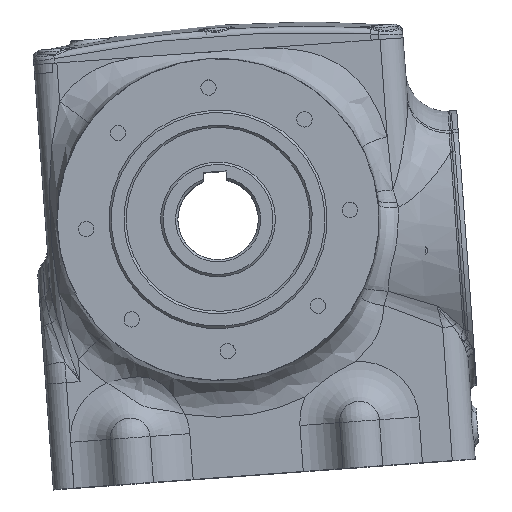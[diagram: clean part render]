
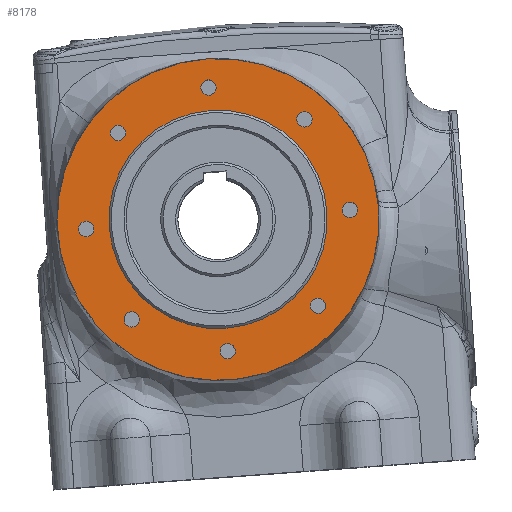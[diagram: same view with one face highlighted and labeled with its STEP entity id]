
A CAD part, top view. The second image highlights one B-rep face of the part: STEP entity #8178.
In plain terms, the highlighted planar face has unit normal (0, 0, 1).
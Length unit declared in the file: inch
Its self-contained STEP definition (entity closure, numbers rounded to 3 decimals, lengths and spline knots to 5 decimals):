
#722=FACE_BOUND('',#2410,.T.);
#723=FACE_BOUND('',#2411,.T.);
#724=FACE_BOUND('',#2412,.T.);
#725=FACE_BOUND('',#2413,.T.);
#726=FACE_BOUND('',#2414,.T.);
#727=FACE_BOUND('',#2415,.T.);
#728=FACE_BOUND('',#2416,.T.);
#729=FACE_BOUND('',#2417,.T.);
#730=FACE_BOUND('',#2418,.T.);
#1256=CIRCLE('',#8919,1.87008);
#1296=CIRCLE('',#8985,2.75591);
#1297=CIRCLE('',#8986,0.13085);
#1298=CIRCLE('',#8987,0.13085);
#1299=CIRCLE('',#8988,0.13085);
#1300=CIRCLE('',#8989,0.13085);
#1301=CIRCLE('',#8990,0.13085);
#1302=CIRCLE('',#8991,0.13085);
#1303=CIRCLE('',#8992,0.13085);
#1304=CIRCLE('',#8993,0.13085);
#1782=FACE_OUTER_BOUND('',#2409,.T.);
#2409=EDGE_LOOP('',(#6316));
#2410=EDGE_LOOP('',(#6317));
#2411=EDGE_LOOP('',(#6318));
#2412=EDGE_LOOP('',(#6319));
#2413=EDGE_LOOP('',(#6320));
#2414=EDGE_LOOP('',(#6321));
#2415=EDGE_LOOP('',(#6322));
#2416=EDGE_LOOP('',(#6323));
#2417=EDGE_LOOP('',(#6324));
#2418=EDGE_LOOP('',(#6325));
#3601=VERTEX_POINT('',#26394);
#3660=VERTEX_POINT('',#27307);
#3661=VERTEX_POINT('',#27309);
#3662=VERTEX_POINT('',#27311);
#3663=VERTEX_POINT('',#27313);
#3664=VERTEX_POINT('',#27315);
#3665=VERTEX_POINT('',#27317);
#3666=VERTEX_POINT('',#27319);
#3667=VERTEX_POINT('',#27321);
#3668=VERTEX_POINT('',#27323);
#4549=EDGE_CURVE('',#3601,#3601,#1256,.T.);
#4616=EDGE_CURVE('',#3660,#3660,#1296,.T.);
#4617=EDGE_CURVE('',#3661,#3661,#1297,.T.);
#4618=EDGE_CURVE('',#3662,#3662,#1298,.T.);
#4619=EDGE_CURVE('',#3663,#3663,#1299,.T.);
#4620=EDGE_CURVE('',#3664,#3664,#1300,.T.);
#4621=EDGE_CURVE('',#3665,#3665,#1301,.T.);
#4622=EDGE_CURVE('',#3666,#3666,#1302,.T.);
#4623=EDGE_CURVE('',#3667,#3667,#1303,.T.);
#4624=EDGE_CURVE('',#3668,#3668,#1304,.T.);
#6316=ORIENTED_EDGE('',*,*,#4616,.T.);
#6317=ORIENTED_EDGE('',*,*,#4549,.T.);
#6318=ORIENTED_EDGE('',*,*,#4617,.T.);
#6319=ORIENTED_EDGE('',*,*,#4618,.T.);
#6320=ORIENTED_EDGE('',*,*,#4619,.T.);
#6321=ORIENTED_EDGE('',*,*,#4620,.T.);
#6322=ORIENTED_EDGE('',*,*,#4621,.T.);
#6323=ORIENTED_EDGE('',*,*,#4622,.T.);
#6324=ORIENTED_EDGE('',*,*,#4623,.T.);
#6325=ORIENTED_EDGE('',*,*,#4624,.T.);
#7250=PLANE('',#8984);
#8178=ADVANCED_FACE('',(#1782,#722,#723,#724,#725,#726,#727,#728,#729,#730),
#7250,.T.);
#8919=AXIS2_PLACEMENT_3D('',#26395,#10477,#10478);
#8984=AXIS2_PLACEMENT_3D('',#27306,#10613,#10614);
#8985=AXIS2_PLACEMENT_3D('',#27308,#10615,#10616);
#8986=AXIS2_PLACEMENT_3D('',#27310,#10617,#10618);
#8987=AXIS2_PLACEMENT_3D('',#27312,#10619,#10620);
#8988=AXIS2_PLACEMENT_3D('',#27314,#10621,#10622);
#8989=AXIS2_PLACEMENT_3D('',#27316,#10623,#10624);
#8990=AXIS2_PLACEMENT_3D('',#27318,#10625,#10626);
#8991=AXIS2_PLACEMENT_3D('',#27320,#10627,#10628);
#8992=AXIS2_PLACEMENT_3D('',#27322,#10629,#10630);
#8993=AXIS2_PLACEMENT_3D('',#27324,#10631,#10632);
#10477=DIRECTION('center_axis',(0.,0.,
-1.));
#10478=DIRECTION('ref_axis',(0.997,0.073,0.));
#10613=DIRECTION('center_axis',(0.,0.,
1.));
#10614=DIRECTION('ref_axis',(0.997,0.073,0.));
#10615=DIRECTION('center_axis',(0.,0.,
1.));
#10616=DIRECTION('ref_axis',(-0.997,-0.073,0.));
#10617=DIRECTION('center_axis',(0.,0.,
-1.));
#10618=DIRECTION('ref_axis',(-0.757,0.654,0.));
#10619=DIRECTION('center_axis',(0.,0.,
-1.));
#10620=DIRECTION('ref_axis',(-0.073,0.997,0.));
#10621=DIRECTION('center_axis',(0.,0.,
-1.));
#10622=DIRECTION('ref_axis',(0.654,0.757,0.));
#10623=DIRECTION('center_axis',(0.,0.,
-1.));
#10624=DIRECTION('ref_axis',(0.997,0.073,0.));
#10625=DIRECTION('center_axis',(0.,0.,
-1.));
#10626=DIRECTION('ref_axis',(0.757,-0.654,0.));
#10627=DIRECTION('center_axis',(0.,0.,
-1.));
#10628=DIRECTION('ref_axis',(0.073,-0.997,0.));
#10629=DIRECTION('center_axis',(0.,0.,
-1.));
#10630=DIRECTION('ref_axis',(-0.654,-0.757,0.));
#10631=DIRECTION('center_axis',(0.,0.,
-1.));
#10632=DIRECTION('ref_axis',(-0.997,-0.073,0.));
#26394=CARTESIAN_POINT('',(-2.73162,1.47148,2.80639));
#26395=CARTESIAN_POINT('Origin',(-0.86649,1.60736,2.80639));
#27306=CARTESIAN_POINT('Origin',(-0.86649,1.60736,2.80639));
#27307=CARTESIAN_POINT('',(1.88213,1.80761,2.80639));
#27308=CARTESIAN_POINT('Origin',(-0.86649,1.60736,2.80639));
#27309=CARTESIAN_POINT('',(0.5147,3.40573,2.80639));
#27310=CARTESIAN_POINT('Origin',(0.6137,3.32018,2.80639));
#27311=CARTESIAN_POINT('',(1.3818,1.90235,2.80639));
#27312=CARTESIAN_POINT('Origin',(1.39131,1.77185,2.80639));
#27313=CARTESIAN_POINT('',(0.93188,0.22617,2.80639));
#27314=CARTESIAN_POINT('Origin',(0.84633,0.12717,2.80639));
#27315=CARTESIAN_POINT('',(-0.5715,-0.64092,2.80639));
#27316=CARTESIAN_POINT('Origin',(-0.702,-0.65043,
2.80639));
#27317=CARTESIAN_POINT('',(-2.24768,-0.19101,2.80639));
#27318=CARTESIAN_POINT('Origin',(-2.34668,-0.10545,2.80639));
#27319=CARTESIAN_POINT('',(-3.11478,1.31237,2.80639));
#27320=CARTESIAN_POINT('Origin',(-3.12428,1.44287,2.80639));
#27321=CARTESIAN_POINT('',(-2.66486,2.98855,2.80639));
#27322=CARTESIAN_POINT('Origin',(-2.5793,3.08755,2.80639));
#27323=CARTESIAN_POINT('',(-1.16148,3.85565,2.80639));
#27324=CARTESIAN_POINT('Origin',(-1.03098,3.86516,2.80639));
